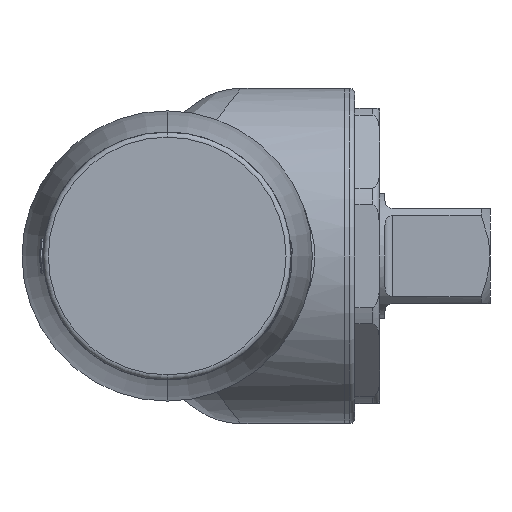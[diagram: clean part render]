
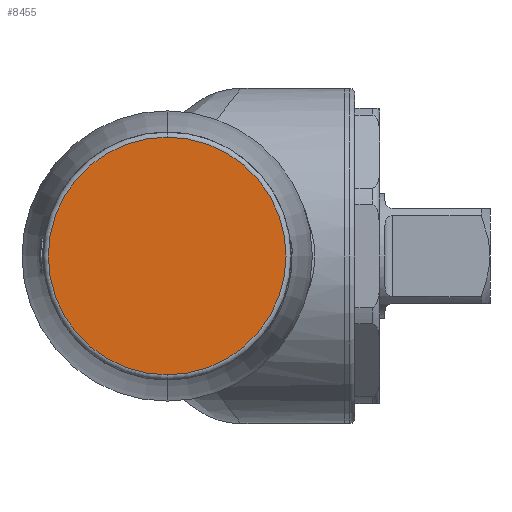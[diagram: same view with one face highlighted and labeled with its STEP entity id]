
A CAD part, left-side view. The second image highlights one B-rep face of the part: STEP entity #8455.
In plain terms, the highlighted planar face has unit normal (-1, 0, 0).
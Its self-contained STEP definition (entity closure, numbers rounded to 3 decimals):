
#599 = CARTESIAN_POINT ( 'NONE',  ( -183.5, 0., 23.75 ) ) ;
#1082 = CARTESIAN_POINT ( 'NONE',  ( -183.5, 0., -23.75 ) ) ;
#1254 = EDGE_LOOP ( 'NONE', ( #27782, #45681 ) ) ;
#3047 = FACE_OUTER_BOUND ( 'NONE', #1254, .T. ) ;
#5982 = AXIS2_PLACEMENT_3D ( 'NONE', #50479, #45412, #36645 ) ;
#8455 = ADVANCED_FACE ( 'NONE', ( #3047 ), #37757, .T. ) ;
#10605 = VERTEX_POINT ( 'NONE', #599 ) ;
#15135 = CARTESIAN_POINT ( 'NONE',  ( -183.5, 0., 0. ) ) ;
#19090 = DIRECTION ( 'NONE',  ( -1., 0., 0. ) ) ;
#19261 = DIRECTION ( 'NONE',  ( -1., 0., 0. ) ) ;
#20780 = EDGE_CURVE ( 'NONE', #41440, #10605, #33835, .T. ) ;
#25065 = CIRCLE ( 'NONE', #45834, 23.75 ) ;
#27782 = ORIENTED_EDGE ( 'NONE', *, *, #48631, .T. ) ;
#32803 = DIRECTION ( 'NONE',  ( 0., 0., 1. ) ) ;
#33835 = CIRCLE ( 'NONE', #43754, 23.75 ) ;
#36645 = DIRECTION ( 'NONE',  ( 0., 0., 1. ) ) ;
#37043 = CARTESIAN_POINT ( 'NONE',  ( -183.5, 0., 0. ) ) ;
#37757 = PLANE ( 'NONE',  #5982 ) ;
#41440 = VERTEX_POINT ( 'NONE', #1082 ) ;
#43754 = AXIS2_PLACEMENT_3D ( 'NONE', #37043, #19261, #32803 ) ;
#44780 = DIRECTION ( 'NONE',  ( 0., 0., 1. ) ) ;
#45412 = DIRECTION ( 'NONE',  ( -1., 0., 0. ) ) ;
#45681 = ORIENTED_EDGE ( 'NONE', *, *, #20780, .T. ) ;
#45834 = AXIS2_PLACEMENT_3D ( 'NONE', #15135, #19090, #44780 ) ;
#48631 = EDGE_CURVE ( 'NONE', #10605, #41440, #25065, .T. ) ;
#50479 = CARTESIAN_POINT ( 'NONE',  ( -183.5, 0., 0. ) ) ;
